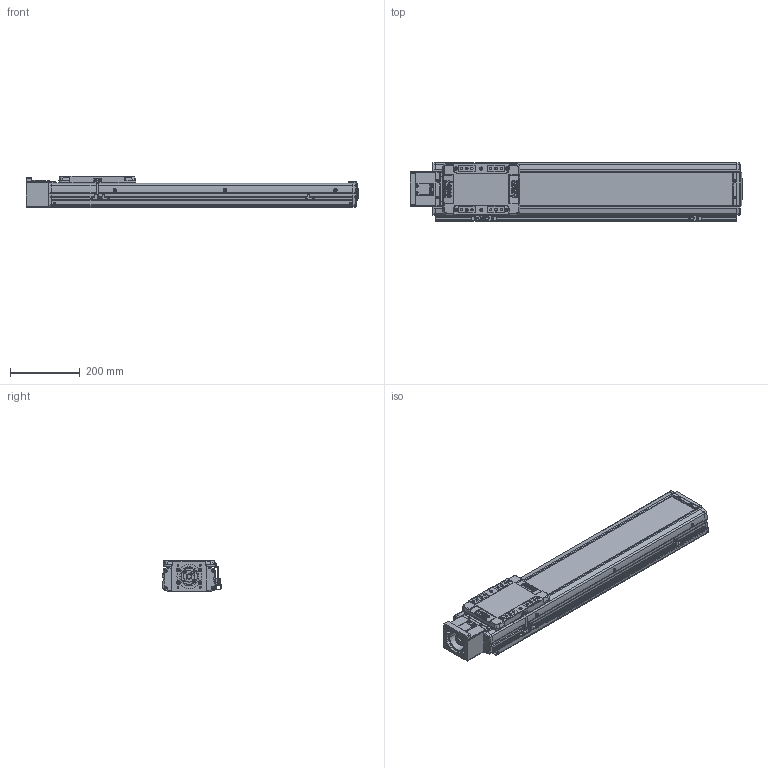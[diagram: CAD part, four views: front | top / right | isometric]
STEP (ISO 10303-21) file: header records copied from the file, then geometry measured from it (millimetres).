
FILE_DESCRIPTION(('STEP AP214'),'1');
FILE_NAME('Z:/Web/3D/SAN150/2013.04 (STP.)/SAN150ㅁㅁ-600S+3SR.stp','2013-05-07T11:24:54',(' '),(' '),'Spatial InterOp 3D',' ',' ');
FILE_SCHEMA(('automotive_design'));
Length unit declared in the file: millimetre
Products named in the file (95): SLBL-SAN150; SLCV-SAN150; FHCS M4.0 x 8.0; BHCS M4.0 x 10.0; SFX-SAN150; RRCV-SAN150; FRBL-SAN150; Spacer; RN15; FRCV-SAN150; Screw 20; BASE-SAN150-000L ; SUS COVER; 스크루 : Round - M5.0 x 6.0; BHCS M3.0 x 6.0; SSFX-SAN65; CPLCV-SAN65; SDWA47C(2); SDWA47C(3-1); SDWA47C(3); SDWA47C(1); SDWA47C(4); SDWA47C(5); MTHZ-SAN150-80; M3.0 x 6.0; SRL-16x17-360L; SGD-SAN150; EE-SX674; SBK-SX674-352; 스크루 : Round - M3.0 x 6.0
Bounding box: 949 x 166 x 90 mm (x, y, z)
Volume: 5507546.4 mm3; surface area: 1138368.3 mm2
Topology: 95 solids, 95 shells, 3408 faces, 8848 edges, 5730 vertices
Faces by surface type: plane 1589, cylinder 1285, cone 409, sphere 80, bspline 29, torus 16
Entity records: 137150 total; most frequent: CARTESIAN_POINT 21939, DIRECTION 19151, ORIENTED_EDGE 17464, EDGE_CURVE 8732, AXIS2_PLACEMENT_3D 7105, VERTEX_POINT 5730, LINE 4941, VECTOR 4941
